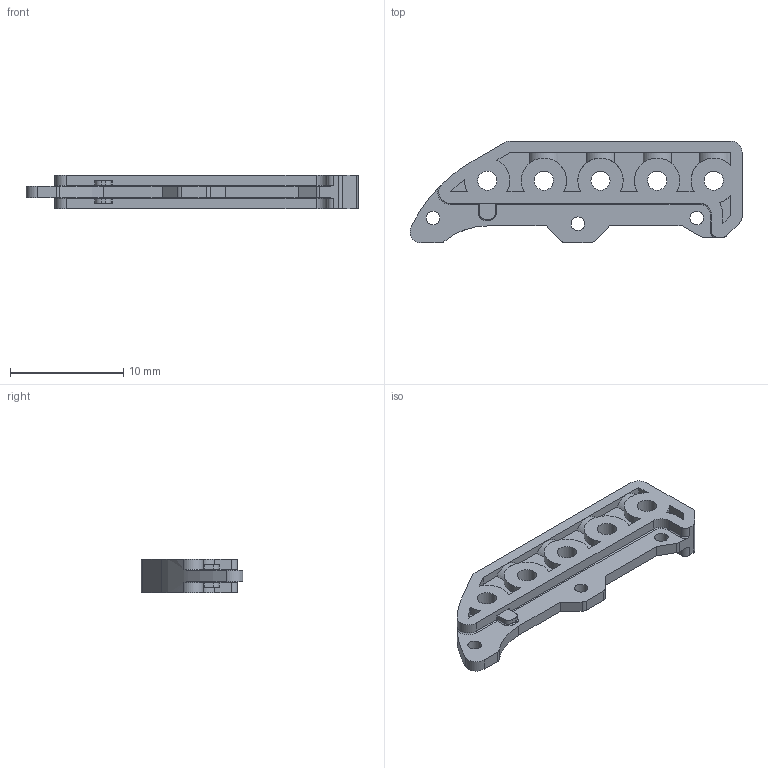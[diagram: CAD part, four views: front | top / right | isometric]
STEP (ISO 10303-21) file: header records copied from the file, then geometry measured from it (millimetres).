
FILE_DESCRIPTION (( 'STEP AP214' ), '1' );
FILE_NAME ('BS3468_BRACKET SET RS204MD J-TOP.STEP', '2018-12-17T08:28:37', ( '' ), ( '' ), 'SwSTEP 2.0', 'SolidWorks 2017', '' );
FILE_SCHEMA (( 'AUTOMOTIVE_DESIGN' ));
Length unit declared in the file: millimetre
Products named in the file (1): BS3468_BRACKET SET RS204MD J-TOP
Bounding box: 29.33 x 9 x 3 mm (x, y, z)
Volume: 410.4 mm3; surface area: 800 mm2
Topology: 1 solids, 1 shells, 153 faces, 415 edges, 270 vertices
Faces by surface type: cylinder 75, plane 64, torus 10, sphere 4
Full cylindrical faces by diameter (mm): 0.9 x4, 1.2 x3, 1.7 x5
Entity records: 5532 total; most frequent: CARTESIAN_POINT 1590, DIRECTION 837, ORIENTED_EDGE 790, EDGE_CURVE 395, AXIS2_PLACEMENT_3D 308, VERTEX_POINT 262, LINE 221, VECTOR 221
